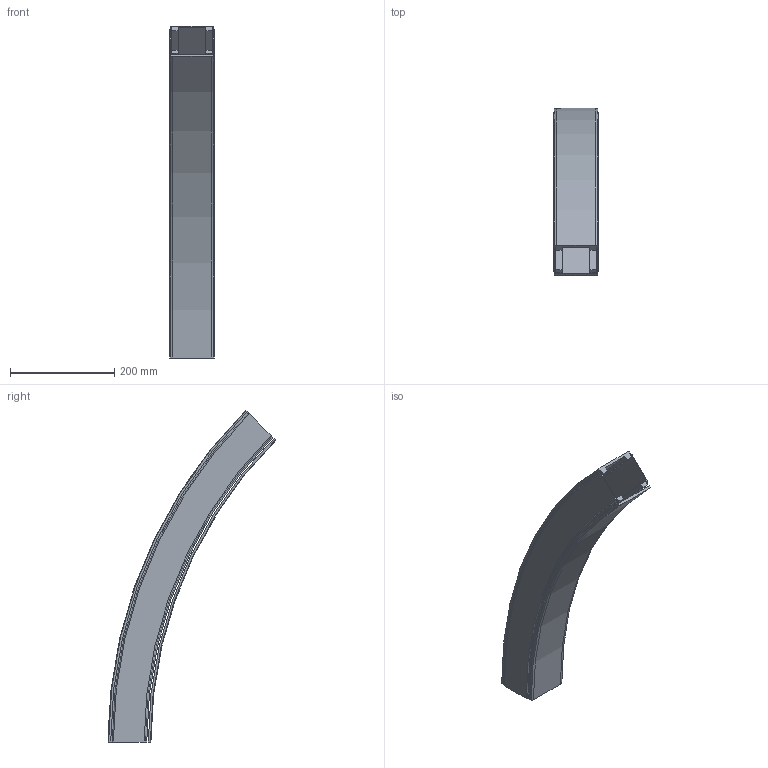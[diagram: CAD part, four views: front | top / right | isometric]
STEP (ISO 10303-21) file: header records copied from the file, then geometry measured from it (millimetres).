
FILE_DESCRIPTION((''),'2;1');
FILE_NAME('C:\Vault Klient\Projekt\Koncept konstruktion\Serie 530 Balk\530-5670_DOWN.stp','2010-11-23T13:28:47',('Mathias'),(''),'Autodesk Inventor 2011','Autodesk Inventor 2011','');
FILE_SCHEMA(('AUTOMOTIVE_DESIGN { 1 0 10303 214 1 1 1 1 }'));
Length unit declared in the file: millimetre
Products named in the file (1): 530-5670_DOWN
Bounding box: 86 x 321.44 x 636.04 mm (x, y, z)
Volume: 1001770.3 mm3; surface area: 486830.1 mm2
Topology: 2 solids, 2 shells, 87 faces, 234 edges, 156 vertices
Faces by surface type: plane 40, cylinder 25, bspline 14, cone 4, torus 4
Entity records: 3221 total; most frequent: CARTESIAN_POINT 983, ORIENTED_EDGE 468, DIRECTION 428, EDGE_CURVE 234, VERTEX_POINT 156, AXIS2_PLACEMENT_3D 148, VECTOR 132, LINE 132
